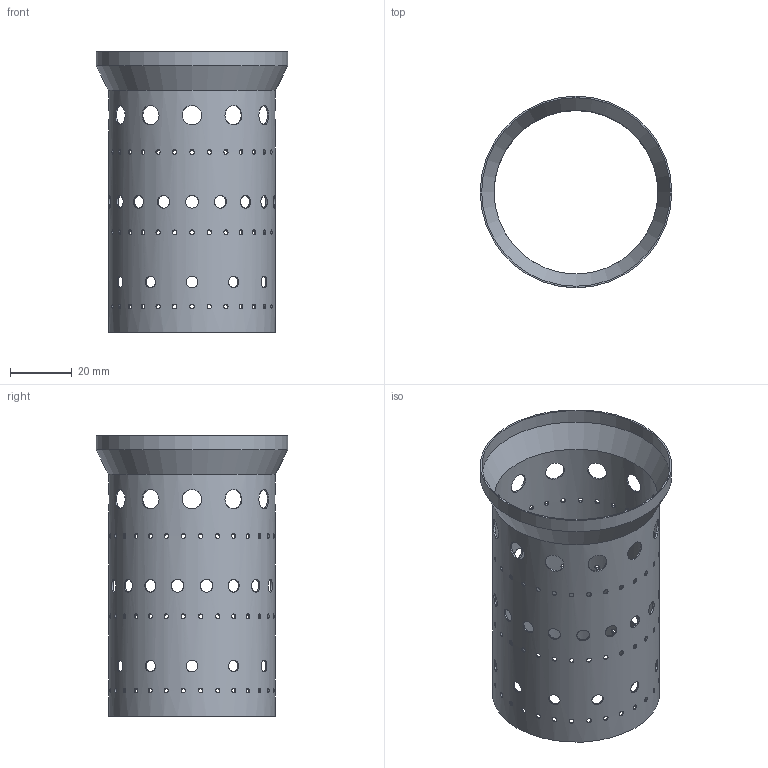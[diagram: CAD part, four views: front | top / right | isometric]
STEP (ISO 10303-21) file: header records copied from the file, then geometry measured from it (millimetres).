
FILE_DESCRIPTION(('Open CASCADE Model'),'2;1');
FILE_NAME('Open CASCADE Shape Model','2026-09-22T23:00:02',('Author'),( 'Open CASCADE'),'Open CASCADE STEP processor 7.9','Open CASCADE 7.9' ,'Unknown');
FILE_SCHEMA(('AUTOMOTIVE_DESIGN { 1 0 10303 214 1 1 1 1 }'));
Length unit declared in the file: millimetre
Products named in the file (1): Open CASCADE STEP translator 7.9 2
Bounding box: 62 x 62 x 90.7 mm (x, y, z)
Volume: 7271.1 mm3; surface area: 30136 mm2
Topology: 1 solids, 1 shells, 140 faces, 422 edges, 280 vertices
Faces by surface type: cylinder 136, cone 2, plane 2
Full cylindrical faces by diameter (mm): 1.479 x90, 3.75 x12, 4.146 x18, 6.312 x12, 53 x1, 54 x1, 61 x1, 62 x1
Entity records: 68351 total; most frequent: CARTESIAN_POINT 61060, B_SPLINE_CURVE_WITH_KNOTS 846, ORIENTED_EDGE 844, PCURVE 844, DEFINITIONAL_REPRESENTATION 844, DIRECTION 710, EDGE_CURVE 422, LINE 408
